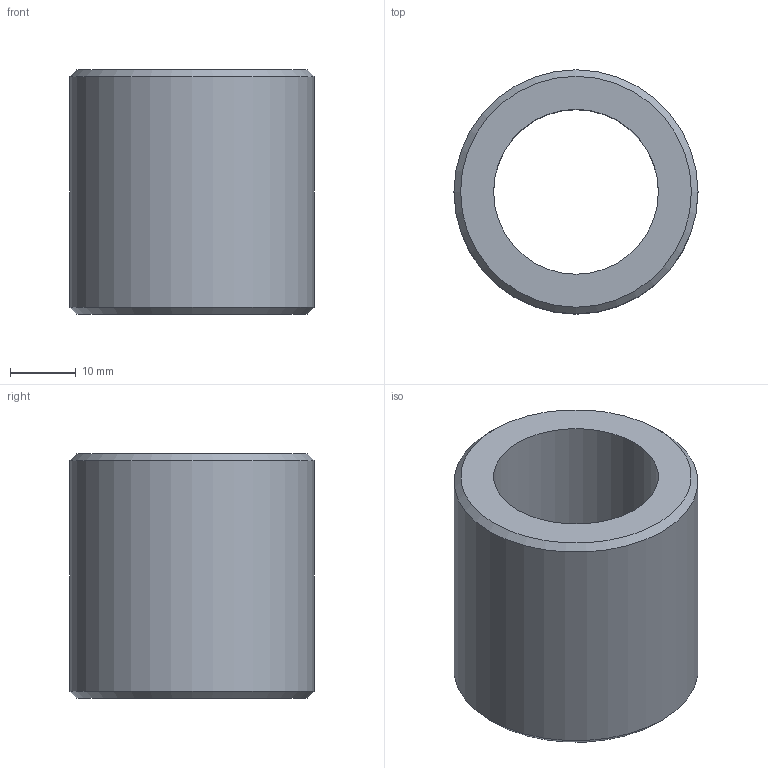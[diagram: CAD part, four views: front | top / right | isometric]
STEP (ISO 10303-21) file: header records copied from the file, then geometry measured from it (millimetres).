
FILE_DESCRIPTION(('STEP AP203'),'1');
FILE_NAME('//192.168.1.1/share/s-4 技術開発/s-4-4_CAD/s-4-4-3_見直し済み/007 修正済み/DB/DB_TOP/DB-25.step','2022-02-08T07:28:28',(' '),(' '),'Spatial InterOp 3D',' ',' ');
FILE_SCHEMA(('CONFIG_CONTROL_DESIGN'));
Length unit declared in the file: millimetre
Products named in the file (1): 1
Bounding box: 37 x 37 x 37 mm (x, y, z)
Volume: 21506.3 mm3; surface area: 8236.7 mm2
Topology: 1 solids, 1 shells, 6 faces, 10 edges, 6 vertices
Faces by surface type: plane 2, cylinder 2, cone 2
Full cylindrical faces by diameter (mm): 25 x1, 37 x1
Entity records: 172 total; most frequent: DIRECTION 26, CARTESIAN_POINT 19, AXIS2_PLACEMENT_3D 13, EDGE_LOOP 12, ORIENTED_EDGE 12, FACE_OUTER_BOUND 8, ADVANCED_FACE 6, EDGE_CURVE 6
